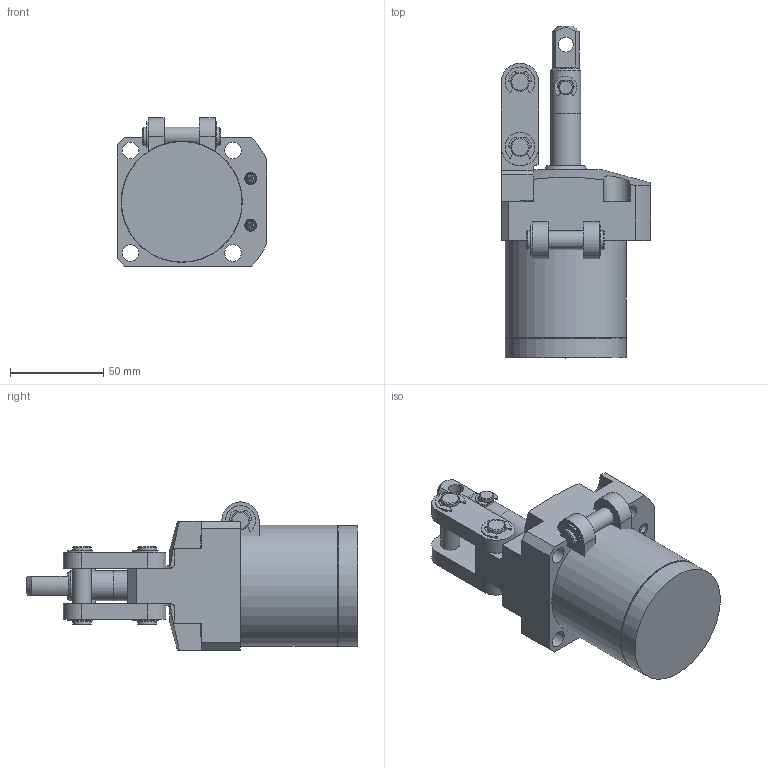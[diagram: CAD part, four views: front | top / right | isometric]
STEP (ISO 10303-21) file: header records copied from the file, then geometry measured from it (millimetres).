
FILE_DESCRIPTION( ( '' ), '1' );
FILE_NAME( 'W:/Catalogue/JL5H/JL5H42-28G/JL5H42-28G.stp', '2008-05-26T01:40:56', ( '機械事業部産業機器グループ' ), ( '豊和工業株式会社' ), 'XStep 1.0', ' ', ' ' );
FILE_SCHEMA( ( 'CONFIG_CONTROL_DESIGN' ) );
Length unit declared in the file: millimetre
Products named in the file (6): Assem1; 1; 2; 3; 4; 5
Bounding box: 80 x 178 x 79.5 mm (x, y, z)
Volume: 758904.8 mm3; surface area: 143089.6 mm2
Topology: 11 solids, 15 shells, 578 faces, 1493 edges, 981 vertices
Faces by surface type: plane 310, cylinder 222, cone 44, torus 2
Full cylindrical faces by diameter (mm): 2 x2, 4 x4, 5 x2, 5.5 x4, 6 x4, 6.5 x4, 6.6 x2, 8 x16, 9 x8, 10 x14, 11 x4, 14.5 x2, 16 x4, 18 x2, 22 x2, 26 x4, 42 x4, 64 x2, 64.7 x2, 65 x2
Entity records: 8656 total; most frequent: CARTESIAN_POINT 1677, DIRECTION 1480, ORIENTED_EDGE 1258, EDGE_CURVE 629, AXIS2_PLACEMENT_3D 582, VERTEX_POINT 449, EDGE_LOOP 392, FACE_OUTER_BOUND 326
